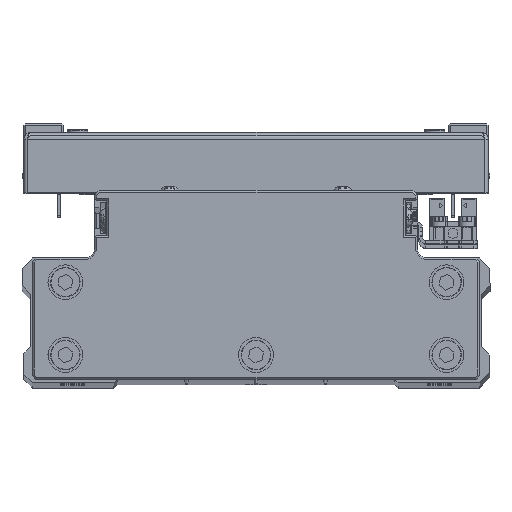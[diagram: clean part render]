
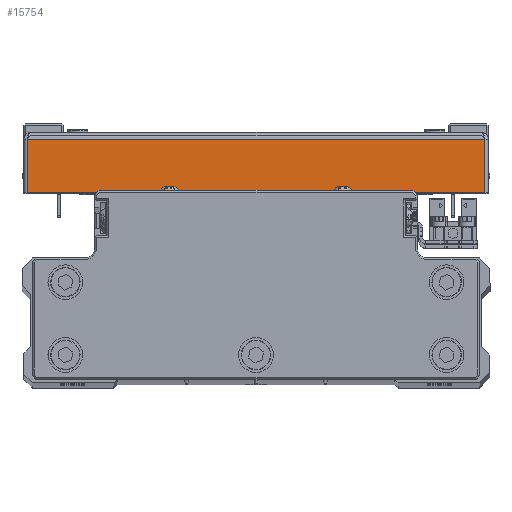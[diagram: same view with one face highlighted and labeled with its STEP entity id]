
A CAD part, top view. The second image highlights one B-rep face of the part: STEP entity #15754.
In plain terms, the highlighted planar face has unit normal (0, 0, 1) as drawn and (1, 0, 0) by its records, which use the part's own axes.
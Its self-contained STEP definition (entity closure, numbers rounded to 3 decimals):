
#1607 = VERTEX_POINT ( 'NONE', #31301 ) ;
#3872 = DIRECTION ( 'NONE',  ( 0., -1., 0. ) ) ;
#5613 = LINE ( 'NONE', #19115, #21029 ) ;
#7189 = PLANE ( 'NONE',  #33042 ) ;
#10504 = DIRECTION ( 'NONE',  ( 0., 1., 0. ) ) ;
#10621 = LINE ( 'NONE', #24098, #21633 ) ;
#11015 = DIRECTION ( 'NONE',  ( 0., 0., 1. ) ) ;
#12454 = EDGE_CURVE ( 'NONE', #1607, #13963, #10621, .T. ) ;
#12651 = ORIENTED_EDGE ( 'NONE', *, *, #15948, .F. ) ;
#13963 = VERTEX_POINT ( 'NONE', #43551 ) ;
#15754 = ADVANCED_FACE ( 'NONE', ( #37501 ), #7189, .F. ) ;
#15948 = EDGE_CURVE ( 'NONE', #33749, #1607, #5613, .T. ) ;
#18513 = CARTESIAN_POINT ( 'NONE',  ( 75., 16.5, -65.929 ) ) ;
#19115 = CARTESIAN_POINT ( 'NONE',  ( 75., 1., 67. ) ) ;
#20690 = CARTESIAN_POINT ( 'NONE',  ( 75., 0., 0. ) ) ;
#21029 = VECTOR ( 'NONE', #32613, 1000. ) ;
#21633 = VECTOR ( 'NONE', #37598, 1000. ) ;
#22304 = CARTESIAN_POINT ( 'NONE',  ( 75., 1., -65.929 ) ) ;
#24098 = CARTESIAN_POINT ( 'NONE',  ( 75., 0., 65.929 ) ) ;
#26679 = VERTEX_POINT ( 'NONE', #18513 ) ;
#27298 = LINE ( 'NONE', #40828, #28212 ) ;
#27806 = LINE ( 'NONE', #41333, #31306 ) ;
#27913 = EDGE_CURVE ( 'NONE', #26679, #13963, #27806, .T. ) ;
#28212 = VECTOR ( 'NONE', #10504, 1000. ) ;
#31301 = CARTESIAN_POINT ( 'NONE',  ( 75., 1., 65.929 ) ) ;
#31306 = VECTOR ( 'NONE', #11015, 1000. ) ;
#32613 = DIRECTION ( 'NONE',  ( 0., 0., 1. ) ) ;
#33042 = AXIS2_PLACEMENT_3D ( 'NONE', #20690, #34191, #3872 ) ;
#33749 = VERTEX_POINT ( 'NONE', #22304 ) ;
#34191 = DIRECTION ( 'NONE',  ( -1., 0., 0. ) ) ;
#34922 = ORIENTED_EDGE ( 'NONE', *, *, #12454, .F. ) ;
#37164 = EDGE_LOOP ( 'NONE', ( #12651, #42668, #42034, #34922 ) ) ;
#37501 = FACE_OUTER_BOUND ( 'NONE', #37164, .T. ) ;
#37598 = DIRECTION ( 'NONE',  ( 0., 1., 0. ) ) ;
#38959 = EDGE_CURVE ( 'NONE', #33749, #26679, #27298, .T. ) ;
#40828 = CARTESIAN_POINT ( 'NONE',  ( 75., 0., -65.929 ) ) ;
#41333 = CARTESIAN_POINT ( 'NONE',  ( 75., 16.5, 0. ) ) ;
#42034 = ORIENTED_EDGE ( 'NONE', *, *, #27913, .T. ) ;
#42668 = ORIENTED_EDGE ( 'NONE', *, *, #38959, .T. ) ;
#43551 = CARTESIAN_POINT ( 'NONE',  ( 75., 16.5, 65.929 ) ) ;
